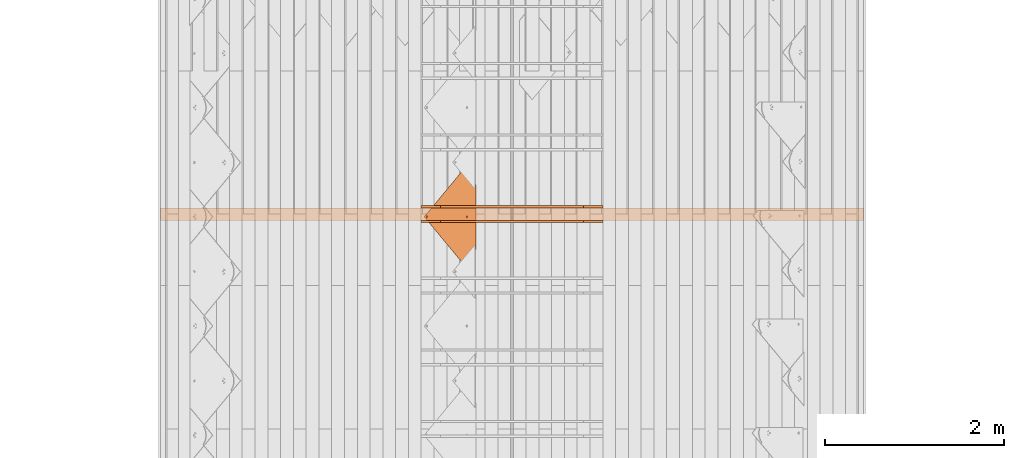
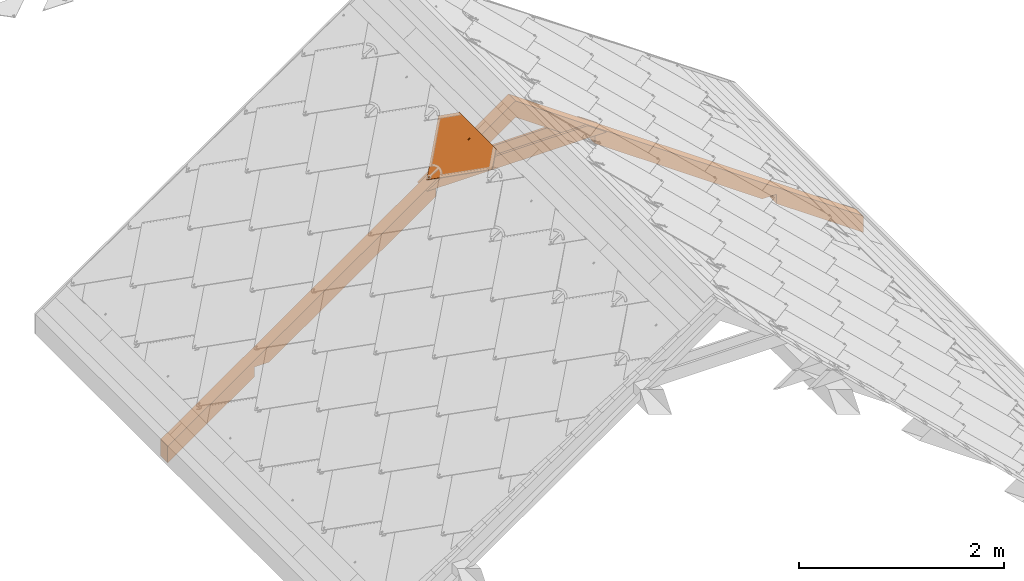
# One storey, part 63 of 133: 4 proxies, 1 element without a shape of its own.
"""IFC2X3 building model written with IfcOpenShell, lengths in millimetres."""

from ifc_helpers import new_model, entity, si_unit, converted_unit, derived_unit, direction, frame, origin, place, context, subcontext, project, spatial, polyline, outline, extrude, faceted_brep, source, transform, mapped, material, material_list, type_object, type_shapes, element, aggregate, save


model = new_model("IFC2X3")

# Units and contexts
model_context = context("Model", 3, precision=0.01, world=origin(), true_north=direction((6.12303176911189e-17, 1.0)))
body_context = subcontext(model_context, "Body", "Model", "MODEL_VIEW")
ifc_project = project(units=[si_unit("LENGTHUNIT", "METRE", prefix="MILLI"), si_unit("AREAUNIT", "SQUARE_METRE"), si_unit("VOLUMEUNIT", "CUBIC_METRE"), converted_unit("PLANEANGLEUNIT", "DEGREE", entity("IfcRatioMeasure", 0.0174532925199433), si_unit("PLANEANGLEUNIT", "RADIAN"), dimensions=[0, 0, 0, 0, 0, 0, 0]), si_unit("MASSUNIT", "GRAM", prefix="KILO"), derived_unit("MASSDENSITYUNIT", [(si_unit("MASSUNIT", "GRAM", prefix="KILO"), 1), (si_unit("LENGTHUNIT", "METRE"), -3)]), si_unit("TIMEUNIT", "SECOND"), si_unit("FREQUENCYUNIT", "HERTZ"), si_unit("THERMODYNAMICTEMPERATUREUNIT", "DEGREE_CELSIUS"), derived_unit("THERMALTRANSMITTANCEUNIT", [(si_unit("MASSUNIT", "GRAM", prefix="KILO"), 1), (si_unit("THERMODYNAMICTEMPERATUREUNIT", "KELVIN"), -1), (si_unit("TIMEUNIT", "SECOND"), -3)]), derived_unit("VOLUMETRICFLOWRATEUNIT", [(si_unit("LENGTHUNIT", "METRE"), 3), (si_unit("TIMEUNIT", "SECOND"), -1)]), si_unit("ELECTRICCURRENTUNIT", "AMPERE"), si_unit("ELECTRICVOLTAGEUNIT", "VOLT"), si_unit("POWERUNIT", "WATT"), si_unit("FORCEUNIT", "NEWTON", prefix="KILO"), si_unit("ILLUMINANCEUNIT", "LUX"), si_unit("LUMINOUSFLUXUNIT", "LUMEN"), si_unit("LUMINOUSINTENSITYUNIT", "CANDELA"), derived_unit("USERDEFINED", [(si_unit("MASSUNIT", "GRAM", prefix="KILO"), -1), (si_unit("LENGTHUNIT", "METRE"), -2), (si_unit("TIMEUNIT", "SECOND"), 3), (si_unit("LUMINOUSFLUXUNIT", "LUMEN"), 1)]), derived_unit("LINEARVELOCITYUNIT", [(si_unit("LENGTHUNIT", "METRE"), 1), (si_unit("TIMEUNIT", "SECOND"), -1)]), si_unit("PRESSUREUNIT", "PASCAL"), derived_unit("USERDEFINED", [(si_unit("LENGTHUNIT", "METRE"), -2), (si_unit("MASSUNIT", "GRAM", prefix="KILO"), 1), (si_unit("TIMEUNIT", "SECOND"), -2)])], contexts=[model_context])

# Site, building, storey
site_placement = place(None, origin())
site = spatial("IfcSite", under=ifc_project, at=site_placement, Name="Default", CompositionType="ELEMENT")
building_placement = place(site_placement, origin())
building = spatial("IfcBuilding", under=site, at=building_placement, CompositionType="ELEMENT")
storey_placement = place(building_placement, origin())
storey = spatial("IfcBuildingStorey", under=building, at=storey_placement, Name="Level 1", CompositionType="ELEMENT", Elevation=0.0)

# Assembly, proxies
assembly_placement = place(storey_placement, origin())
assembly = element("IfcElementAssembly", 1, at=assembly_placement, inside=storey, Name="Structural Framing Assembly:Roof Construction Assembly", ObjectType="Structural Framing Assembly:Roof Construction Assembly", AssemblyPlace="NOTDEFINED", PredefinedType="USERDEFINED")
ifc_material_1 = material(Name="Wood - Generic - Wood For Showcase")
building_element_proxy_type_1 = type_object("IfcBuildingElementProxyType", Name="Structural Framing 1", PredefinedType="NOTDEFINED", material=ifc_material_1)
shared_shape_1 = source(origin(), body_context, "Body", "SweptSolid", [
    extrude(outline(polyline([(-929.245683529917, -1327.10037070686), (3863.25950492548, -1327.10037070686), (3975.29271103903, -1167.10037070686), (2778.93361405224, -1167.10037070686), (2713.54351952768, -1260.48710386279), (2580.17344271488, -1167.10037070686), (278.933614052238, -1167.10037070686), (213.543519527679, -1260.48710386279), (80.1734427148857, -1167.10037070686), (-817.21247741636, -1167.10037070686), (-1124.13653843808, -323.833443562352), (-1257.50661525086, -230.446710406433), (-1192.11652072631, -137.059977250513), (-1979.18689675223, 2025.39810840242), (-2112.55697356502, 2118.78484155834), (-2047.16687904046, 2212.17157471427), (-2456.34578886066, 3336.38138996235), (-2568.37899497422, 3176.38138996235), (-929.245683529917, -1327.10037070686)])), frame((1206.77890726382, 3785.55080214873, 1179.90959070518), z_axis=(0.0, 1.0, 0.0), x_axis=(0.819152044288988, 0.0, -0.573576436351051)), (0.0, 0.0, 1.0), 140.0),
])
type_shapes(building_element_proxy_type_1, [shared_shape_1])
proxy_1_placement = place(assembly_placement, frame((0.0, -2400.0, 0.0)))
proxy_1 = element("IfcBuildingElementProxy", 2, at=proxy_1_placement, type_object=building_element_proxy_type_1, material=ifc_material_1, Name="Structural Framing 4:Structural Framing 1", ObjectType="Structural Framing 4:Structural Framing 1", context=body_context, shape_type="MappedRepresentation", body=[
    mapped(shared_shape_1, transform((0.0, 0.0, 0.0), scale=1.0)),
])
building_element_proxy_type_2 = type_object("IfcBuildingElementProxyType", Name="Structural Framing 296", PredefinedType="NOTDEFINED", material=ifc_material_1)
shared_shape_2 = source(origin(), body_context, "Body", "SweptSolid", [
    extrude(outline(polyline([(-1014.04699829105, -75.0), (1014.04699829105, -75.0), (799.824797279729, 75.0), (-799.824797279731, 75.0), (-1014.04699829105, -75.0)])), frame((1206.77890726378, 3760.55080214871, 2164.95664769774), z_axis=(0.0, 1.0, 0.0), x_axis=(-1.0, 0.0, 0.0)), (0.0, 0.0, 1.0), 24.9999999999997),
])
type_shapes(building_element_proxy_type_2, [shared_shape_2])
proxy_2_placement = place(assembly_placement, frame((0.0, -2400.0, 0.0)))
proxy_2 = element("IfcBuildingElementProxy", 3, at=proxy_2_placement, type_object=building_element_proxy_type_2, material=ifc_material_1, Name="Structural Framing 301:Structural Framing 296", ObjectType="Structural Framing 301:Structural Framing 296", context=body_context, shape_type="MappedRepresentation", body=[
    mapped(shared_shape_2, transform((0.0, 0.0, 0.0), scale=1.0)),
])
building_element_proxy_type_3 = type_object("IfcBuildingElementProxyType", Name="Structural Framing 296", PredefinedType="NOTDEFINED", material=ifc_material_1)
shared_shape_3 = source(origin(), body_context, "Body", "SweptSolid", [
    extrude(outline(polyline([(-1014.04699829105, -75.0), (1014.04699829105, -75.0), (799.824797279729, 75.0), (-799.824797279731, 75.0), (-1014.04699829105, -75.0)])), frame((1206.77890726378, 2325.55080214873, 2164.95664769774), z_axis=(0.0, 1.0, 0.0), x_axis=(-1.0, 0.0, 0.0)), (0.0, 0.0, 1.0), 25.0),
])
type_shapes(building_element_proxy_type_3, [shared_shape_3])
proxy_3_placement = place(assembly_placement, frame((0.0, -800.0, 0.0)))
proxy_3 = element("IfcBuildingElementProxy", 4, at=proxy_3_placement, type_object=building_element_proxy_type_3, material=ifc_material_1, Name="Structural Framing 302:Structural Framing 296", ObjectType="Structural Framing 302:Structural Framing 296", context=body_context, shape_type="MappedRepresentation", body=[
    mapped(shared_shape_3, transform((0.0, 0.0, 0.0), scale=1.0)),
])
aggregate(assembly, [proxy_1, proxy_2, proxy_3])

# Proxy
ifc_material_2 = material(Name="Rubber - Sunstyle - Black")
ifc_material_3 = material(Name="Glass - Sunstyle - Tainted Black")
ifc_material_list_1 = material_list([ifc_material_2, ifc_material_3])
ifc_material_list_2 = material_list([ifc_material_2, ifc_material_3])
building_element_proxy_type_4 = type_object("IfcBuildingElementProxyType", Name="Shingle Top - Black", PredefinedType="NOTDEFINED", material=ifc_material_list_2)
shared_shape_4 = source(origin(), body_context, "Body", "Brep", [
    faceted_brep([(-518.396436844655, -96.9865733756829, 16.4476231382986), (-518.396436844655, -96.9614556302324, 17.9474128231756), (-526.881123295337, -88.4767691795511, 17.8053154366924), (-526.881123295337, -88.5018869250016, 16.3055257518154), (-376.996804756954, 61.3404039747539, 13.7960402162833), (-368.512118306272, 52.8557175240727, 13.9381376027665), (-376.996804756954, 61.3655217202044, 15.2958299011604), (-368.512118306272, 52.8808352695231, 15.4379272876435)], [[[0, 1, 2, 3]], [[0, 3, 4, 5]], [[3, 2, 6, 4]], [[2, 1, 7, 6]], [[1, 0, 5, 7]], [[5, 4, 6, 7]]]),
    faceted_brep([(0.166366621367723, -33.6374645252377, -4.47296585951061), (-5.6078362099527, -36.9707346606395, -4.4171418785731), (-5.60783620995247, -36.6024255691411, 17.5747274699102), (0.166366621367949, -33.2691554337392, 17.5189034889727), (-5.60783620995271, -43.6372749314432, -4.30549391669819), (-5.60783620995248, -43.2689658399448, 17.6863754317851), (0.166366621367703, -46.9705450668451, -4.24966993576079), (0.166366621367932, -46.6022359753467, 17.7421994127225), (5.94056945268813, -43.6372749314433, -4.30549391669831), (5.94056945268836, -43.2689658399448, 17.686375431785), (5.94056945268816, -36.9707346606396, -4.41714187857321), (5.94056945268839, -36.6024255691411, 17.5747274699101), (-8.43733754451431, -48.5381935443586, 17.774621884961), (0.16636662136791, -52.1014648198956, 17.8342978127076), (-12.0011084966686, -39.9356957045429, 17.6305514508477), (-8.43733754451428, -31.3331978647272, 17.4864810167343), (0.166366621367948, -27.7699265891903, 17.4268050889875), (8.77007078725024, -31.3331978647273, 17.4864810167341), (12.3338417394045, -39.935695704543, 17.6305514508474), (8.77007078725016, -48.5381935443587, 17.7746218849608), (-11.1578780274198, -37.6406185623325, 19.9433933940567), (-9.59010793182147, -39.8646808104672, 21.8708760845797), (0.166366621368, -32.5516055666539, 22.5035764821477), (0.166366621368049, -31.3111079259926, 21.9232298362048), (0.166366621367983, -29.1535570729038, 20.9138547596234), (0.166366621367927, -51.5454208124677, 19.1093557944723), (0.166366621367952, -50.6018442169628, 21.273060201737), (0.166366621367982, -47.1524685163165, 22.7481046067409), (0.166366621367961, -28.2829626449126, 18.7197675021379), (-6.15687907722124, -43.5022527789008, 22.6869725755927), (-6.15687907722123, -36.2018213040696, 22.5647085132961), (11.4906112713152, -42.1520387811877, 20.0189484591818), (10.0152467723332, -40.9390872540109, 21.7920079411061), (6.48961231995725, -36.2018213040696, 22.564708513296), (6.48961231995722, -43.5022527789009, 22.6869725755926), (-6.15687907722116, -43.3682243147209, 30.68986075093), (0.166366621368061, -47.0184400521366, 30.7509927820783), (0.166366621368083, -39.7180085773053, 30.6287287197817), (-6.15687907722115, -36.0677928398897, 30.5675966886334), (6.48961231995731, -43.368224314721, 30.6898607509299), (6.48961231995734, -36.0677928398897, 30.5675966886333), (0.166366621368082, -32.417577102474, 30.5064646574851), (0.166366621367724, -40.3040047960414, -4.36131789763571)], [[[0, 1, 2, 3]], [[1, 4, 5, 2]], [[4, 6, 7, 5]], [[6, 8, 9, 7]], [[8, 10, 11, 9]], [[10, 0, 3, 11]], [[12, 7, 13]], [[7, 12, 5]], [[14, 5, 12]], [[5, 14, 2]], [[15, 2, 14]], [[3, 2, 15]], [[15, 16, 3]], [[16, 17, 3]], [[11, 3, 17]], [[11, 17, 18]], [[9, 11, 18]], [[18, 19, 9]], [[7, 9, 19]], [[19, 13, 7]], [[20, 14, 12]], [[21, 22, 23, 24]], [[24, 20, 21]], [[25, 20, 12]], [[26, 27, 21]], [[15, 14, 20]], [[12, 13, 25]], [[20, 28, 15]], [[28, 20, 24]], [[21, 27, 29]], [[21, 29, 30]], [[26, 21, 20]], [[20, 25, 26]], [[15, 28, 16]], [[21, 30, 22]], [[31, 18, 17]], [[28, 31, 17]], [[32, 27, 26]], [[26, 31, 32]], [[26, 25, 31]], [[25, 19, 31]], [[17, 16, 28]], [[31, 19, 18]], [[24, 31, 28]], [[33, 34, 32]], [[23, 22, 33]], [[24, 32, 31]], [[27, 32, 34]], [[32, 23, 33]], [[19, 25, 13]], [[32, 24, 23]], [[35, 36, 37]], [[37, 38, 35]], [[36, 39, 37]], [[40, 37, 39]], [[37, 40, 41]], [[37, 41, 38]], [[42, 6, 4]], [[4, 1, 42]], [[1, 0, 42]], [[42, 8, 6]], [[0, 10, 42]], [[8, 42, 10]], [[22, 30, 38, 41]], [[30, 29, 35, 38]], [[29, 27, 36, 35]], [[27, 34, 39, 36]], [[34, 33, 40, 39]], [[33, 22, 41, 40]]]),
    faceted_brep([(0.0, -573.927138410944, 4.00636906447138), (-5.77420283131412, -577.260408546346, 4.0621930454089), (-5.77420283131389, -576.892099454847, 26.0540623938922), (0.0, -573.558829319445, 25.9982384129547), (-5.77420283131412, -583.926948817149, 4.1738410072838), (-5.7742028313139, -583.558639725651, 26.1657103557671), (0.0, -587.260218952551, 4.2296649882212), (0.0, -586.891909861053, 26.2215343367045), (5.77420283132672, -583.926948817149, 4.17384100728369), (5.77420283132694, -583.558639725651, 26.165710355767), (5.77420283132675, -577.260408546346, 4.06219304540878), (5.77420283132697, -576.892099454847, 26.0540623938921), (-8.60370416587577, -588.827867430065, 26.253956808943), (0.0, -592.391138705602, 26.3136327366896), (-12.1674751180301, -580.225369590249, 26.1098863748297), (-8.60370416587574, -571.622871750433, 25.9658159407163), (0.0, -568.059600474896, 25.9061400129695), (8.60370416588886, -571.622871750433, 25.9658159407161), (12.1674751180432, -580.225369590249, 26.1098863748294), (8.60370416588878, -588.827867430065, 26.2539568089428), (-11.3242446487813, -577.930292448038, 28.4227283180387), (-9.75647455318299, -580.154354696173, 30.3502110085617), (0.0, -572.84127945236, 30.9829114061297), (0.0, -571.600781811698, 30.4025647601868), (0.0, -569.44323095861, 29.3931896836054), (0.0, -591.835094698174, 27.5886907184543), (0.0, -590.891518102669, 29.752395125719), (0.0, -587.442142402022, 31.227439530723), (0.0, -568.572636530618, 27.1991024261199), (-6.32324569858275, -583.791926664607, 31.1663074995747), (-6.32324569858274, -576.491495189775, 31.0440434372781), (11.3242446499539, -582.441712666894, 28.4982833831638), (9.84888015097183, -581.228761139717, 30.2713428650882), (6.32324569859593, -576.491495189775, 31.044043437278), (6.32324569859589, -583.791926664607, 31.1663074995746), (-6.32324569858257, -583.657898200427, 39.169195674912), (0.0, -587.308113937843, 39.2303277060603), (0.0, -580.007682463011, 39.1080636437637), (-6.32324569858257, -576.357466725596, 39.0469316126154), (6.32324569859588, -583.657898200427, 39.1691956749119), (6.32324569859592, -576.357466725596, 39.0469316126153), (0.0, -572.70725098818, 38.9857995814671), (0.0, -580.593678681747, 4.11801702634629)], [[[0, 1, 2, 3]], [[1, 4, 5, 2]], [[4, 6, 7, 5]], [[6, 8, 9, 7]], [[8, 10, 11, 9]], [[10, 0, 3, 11]], [[12, 7, 13]], [[7, 12, 5]], [[14, 5, 12]], [[5, 14, 2]], [[15, 2, 14]], [[3, 2, 15]], [[15, 16, 3]], [[16, 17, 3]], [[11, 3, 17]], [[11, 17, 18]], [[9, 11, 18]], [[18, 19, 9]], [[7, 9, 19]], [[19, 13, 7]], [[20, 14, 12]], [[21, 22, 23, 24]], [[24, 20, 21]], [[25, 20, 12]], [[26, 27, 21]], [[15, 14, 20]], [[12, 13, 25]], [[20, 28, 15]], [[28, 20, 24]], [[21, 27, 29]], [[21, 29, 30]], [[26, 21, 20]], [[20, 25, 26]], [[15, 28, 16]], [[21, 30, 22]], [[31, 18, 17]], [[28, 31, 17]], [[32, 27, 26]], [[26, 31, 32]], [[26, 25, 31]], [[25, 19, 31]], [[17, 16, 28]], [[31, 19, 18]], [[24, 31, 28]], [[33, 34, 32]], [[23, 22, 33]], [[24, 32, 31]], [[27, 32, 34]], [[32, 23, 33]], [[19, 25, 13]], [[32, 24, 23]], [[35, 36, 37]], [[37, 38, 35]], [[36, 39, 37]], [[40, 37, 39]], [[37, 40, 41]], [[37, 41, 38]], [[42, 6, 4]], [[4, 1, 42]], [[1, 0, 42]], [[42, 8, 6]], [[0, 10, 42]], [[8, 42, 10]], [[22, 30, 38, 41]], [[30, 29, 35, 38]], [[29, 27, 36, 35]], [[27, 34, 39, 36]], [[34, 33, 40, 39]], [[33, 22, 41, 40]]]),
    faceted_brep([(518.482751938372, -96.8754983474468, 17.9260478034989), (526.967438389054, -88.3908118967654, 17.7839504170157), (526.967438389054, -88.3656941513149, 19.2837401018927), (518.482751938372, -96.8503806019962, 19.4258374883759), (349.749400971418, 71.8105397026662, 15.1009763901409), (358.234087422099, 80.2952261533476, 14.9588790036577), (358.234087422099, 80.3203438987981, 16.4586686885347), (349.749400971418, 71.8356574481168, 16.6007660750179)], [[[0, 1, 2, 3]], [[1, 0, 4, 5]], [[2, 1, 5, 6]], [[3, 2, 6, 7]], [[0, 3, 7, 4]], [[4, 7, 6, 5]]]),
    faceted_brep([(358.234087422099, 80.2952261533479, 14.9588790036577), (6.94661128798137, -35.8890860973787, 16.9046771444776), (7.74581466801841, -37.8182632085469, 16.9369860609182), (5.67526230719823, -34.2324641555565, 16.8769328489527), (8.01840805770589, -39.8885252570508, 16.9716577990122), (7.74581466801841, -41.9587873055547, 17.0063295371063), (6.94661128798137, -43.8879644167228, 17.0386384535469), (526.967438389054, -88.3908118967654, 17.7839504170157), (4.01840805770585, -32.9612934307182, 16.855643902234), (2.08896041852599, -32.1622021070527, 16.8422611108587), (0.0184080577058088, -31.8896469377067, 16.8376964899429), (-358.233442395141, 80.2952261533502, 14.9588790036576), (-2.05214430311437, -32.1622021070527, 16.8422611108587), (-3.98159194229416, -32.9612934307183, 16.855643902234), (-5.63844619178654, -34.2324641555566, 16.8769328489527), (-6.90979517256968, -35.8890860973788, 16.9046771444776), (-7.70899855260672, -37.8182632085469, 16.9369860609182), (-7.98159194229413, -39.8885252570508, 16.9716577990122), (-7.70899855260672, -41.9587873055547, 17.0063295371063), (-6.90979517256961, -43.8879644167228, 17.0386384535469), (-526.966793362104, -88.390811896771, 17.7839504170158), (-5.63844619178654, -45.544586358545, 17.0663827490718), (-5.6568542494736, -574.226981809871, 25.9204974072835), (-6.92820323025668, -575.883603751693, 25.9482417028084), (-7.72740661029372, -577.812780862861, 25.980550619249), (-8.0, -579.883042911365, 26.015222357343), (-7.72740661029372, -581.953304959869, 26.049894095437), (0.000322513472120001, -615.210165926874, 26.6068637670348), (7.72740661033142, -581.953304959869, 26.049894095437), (6.92820323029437, -583.882482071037, 26.0822030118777), (5.65685424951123, -585.53910401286, 26.1099473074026), (4.0, -586.810274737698, 26.1312362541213), (2.070552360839, -587.609366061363, 26.1446190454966), (0.0, -587.881921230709, 26.1491836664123), (-2.0705523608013, -587.609366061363, 26.1446190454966), (-4.0, -586.810274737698, 26.1312362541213), (-5.65685424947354, -585.53910401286, 26.1099473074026), (-6.92820323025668, -583.882482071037, 26.0822030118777), (-4.0, -572.955811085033, 25.8992084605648), (-3.98159194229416, -46.8157570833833, 17.0876716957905), (-2.07055236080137, -572.156719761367, 25.8858256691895), (-2.05214430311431, -47.614848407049, 17.1010544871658), (0.0, -571.884164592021, 25.8812610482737), (0.0184080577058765, -47.8874035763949, 17.1056191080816), (2.07055236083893, -572.156719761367, 25.8858256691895), (2.08896041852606, -47.6148484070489, 17.1010544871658), (4.0, -572.955811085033, 25.8992084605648), (4.01840805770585, -46.8157570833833, 17.0876716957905), (5.65685424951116, -574.226981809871, 25.9204974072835), (5.67526230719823, -45.544586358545, 17.0663827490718), (6.92820323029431, -575.883603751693, 25.9482417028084), (7.72740661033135, -577.812780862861, 25.980550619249), (8.0, -579.883042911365, 26.015222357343), (-358.233442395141, 80.1947551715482, 8.9597202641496), (-6.90979517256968, -35.9895570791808, 10.9055184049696), (-7.70899855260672, -37.9187341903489, 10.9378273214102), (-5.63844619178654, -34.3329351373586, 10.8777741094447), (-7.98159194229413, -39.9889962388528, 10.9724990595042), (-7.70899855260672, -42.0592582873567, 11.0071707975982), (-6.90979517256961, -43.9884353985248, 11.0394797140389), (-526.966793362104, -88.4912828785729, 11.7847916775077), (-3.98159194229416, -33.0617644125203, 10.856485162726), (-2.05214430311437, -32.2626730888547, 10.8431023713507), (0.0184080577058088, -31.9901179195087, 10.8385377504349), (358.234087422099, 80.1947551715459, 8.95972026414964), (2.08896041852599, -32.2626730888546, 10.8431023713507), (4.01840805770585, -33.0617644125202, 10.856485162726), (5.67526230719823, -34.3329351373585, 10.8777741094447), (6.94661128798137, -35.9895570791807, 10.9055184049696), (7.74581466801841, -37.9187341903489, 10.9378273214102), (8.01840805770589, -39.9889962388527, 10.9724990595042), (7.74581466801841, -42.0592582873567, 11.0071707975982), (6.94661128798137, -43.9884353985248, 11.0394797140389), (526.967438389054, -88.4912828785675, 11.7847916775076), (5.67526230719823, -45.645057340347, 11.0672240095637), (5.65685424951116, -574.327452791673, 19.9213386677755), (6.92820323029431, -575.984074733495, 19.9490829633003), (7.72740661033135, -577.913251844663, 19.981391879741), (8.0, -579.983513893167, 20.016063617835), (7.72740661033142, -582.053775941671, 20.050735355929), (0.000322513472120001, -615.310636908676, 20.6077050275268), (-7.72740661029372, -582.053775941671, 20.050735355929), (-6.92820323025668, -583.982953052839, 20.0830442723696), (-5.65685424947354, -585.639574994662, 20.1107885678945), (-4.0, -586.9107457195, 20.1320775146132), (-2.0705523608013, -587.709837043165, 20.1454603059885), (0.0, -587.982392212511, 20.1500249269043), (2.070552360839, -587.709837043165, 20.1454603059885), (4.0, -586.9107457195, 20.1320775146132), (5.65685424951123, -585.639574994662, 20.1107885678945), (6.92820323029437, -583.982953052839, 20.0830442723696), (4.01840805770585, -46.9162280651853, 11.0885129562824), (4.0, -573.056282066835, 19.9000497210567), (2.08896041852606, -47.7153193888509, 11.1018957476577), (2.07055236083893, -572.257190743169, 19.8866669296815), (0.0184080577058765, -47.9878745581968, 11.1064603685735), (0.0, -571.984635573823, 19.8821023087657), (-2.05214430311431, -47.7153193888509, 11.1018957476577), (-2.07055236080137, -572.257190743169, 19.8866669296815), (-3.98159194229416, -46.9162280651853, 11.0885129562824), (-4.0, -573.056282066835, 19.9000497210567), (-5.63844619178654, -45.645057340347, 11.0672240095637), (-5.6568542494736, -574.327452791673, 19.9213386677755), (-6.92820323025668, -575.984074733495, 19.9490829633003), (-7.72740661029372, -577.913251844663, 19.981391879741), (-8.0, -579.983513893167, 20.016063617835)], [[[0, 1, 2]], [[1, 0, 3]], [[0, 2, 4]], [[4, 5, 0]], [[5, 6, 0]], [[7, 0, 6]], [[8, 3, 0]], [[9, 8, 0]], [[10, 9, 0]], [[0, 11, 10]], [[12, 10, 11]], [[13, 12, 11]], [[14, 13, 11]], [[11, 15, 14]], [[15, 11, 16]], [[16, 11, 17]], [[11, 18, 17]], [[18, 11, 19]], [[11, 20, 19]], [[19, 20, 21]], [[20, 22, 21]], [[23, 22, 20]], [[24, 23, 20]], [[24, 20, 25]], [[26, 25, 20]], [[27, 26, 20]], [[7, 28, 27]], [[29, 27, 28]], [[27, 29, 30]], [[30, 31, 27]], [[31, 32, 27]], [[27, 32, 33]], [[27, 33, 34]], [[34, 35, 27]], [[27, 35, 36]], [[36, 37, 27]], [[37, 26, 27]], [[38, 21, 22]], [[38, 39, 21]], [[38, 40, 39]], [[40, 41, 39]], [[40, 42, 41]], [[41, 42, 43]], [[44, 43, 42]], [[44, 45, 43]], [[45, 44, 46]], [[46, 47, 45]], [[46, 48, 47]], [[48, 49, 47]], [[50, 7, 48]], [[48, 7, 49]], [[7, 50, 51]], [[7, 51, 52]], [[52, 28, 7]], [[7, 6, 49]], [[53, 54, 55]], [[54, 53, 56]], [[53, 55, 57]], [[58, 53, 57]], [[59, 53, 58]], [[60, 53, 59]], [[61, 56, 53]], [[62, 61, 53]], [[53, 63, 62]], [[63, 53, 64]], [[65, 63, 64]], [[66, 65, 64]], [[64, 67, 66]], [[67, 64, 68]], [[68, 64, 69]], [[70, 69, 64]], [[71, 70, 64]], [[72, 71, 64]], [[72, 64, 73]], [[72, 73, 74]], [[74, 73, 75]], [[73, 76, 75]], [[76, 73, 77]], [[77, 73, 78]], [[79, 78, 73]], [[79, 73, 80]], [[60, 81, 80]], [[80, 81, 82]], [[80, 82, 83]], [[83, 84, 80]], [[84, 85, 80]], [[85, 86, 80]], [[80, 86, 87]], [[80, 87, 88]], [[80, 88, 89]], [[79, 80, 90]], [[80, 89, 90]], [[75, 91, 74]], [[75, 92, 91]], [[92, 93, 91]], [[93, 92, 94]], [[93, 94, 95]], [[96, 95, 94]], [[97, 95, 96]], [[96, 98, 97]], [[98, 99, 97]], [[98, 100, 99]], [[100, 101, 99]], [[100, 102, 101]], [[60, 101, 102]], [[103, 60, 102]], [[103, 104, 60]], [[104, 105, 60]], [[105, 81, 60]], [[59, 101, 60]], [[27, 20, 60, 80]], [[7, 27, 80, 73]], [[0, 7, 73, 64]], [[25, 105, 104, 24]], [[24, 104, 103, 23]], [[38, 22, 102, 100]], [[102, 22, 23, 103]], [[40, 38, 100, 98]], [[40, 98, 96, 42]], [[42, 96, 94, 44]], [[44, 94, 92, 46]], [[50, 48, 75, 76]], [[75, 48, 46, 92]], [[51, 50, 76, 77]], [[51, 77, 78, 52]], [[52, 78, 79, 28]], [[28, 79, 90, 29]], [[31, 30, 89, 88]], [[29, 90, 89, 30]], [[87, 32, 31, 88]], [[32, 87, 86, 33]], [[34, 33, 86, 85]], [[34, 85, 84, 35]], [[37, 36, 83, 82]], [[35, 84, 83, 36]], [[37, 82, 81, 26]], [[26, 81, 105, 25]], [[17, 57, 55, 16]], [[16, 55, 54, 15]], [[13, 14, 56, 61]], [[56, 14, 15, 54]], [[12, 13, 61, 62]], [[12, 62, 63, 10]], [[10, 63, 65, 9]], [[9, 65, 66, 8]], [[1, 3, 67, 68]], [[67, 3, 8, 66]], [[2, 1, 68, 69]], [[2, 69, 70, 4]], [[4, 70, 71, 5]], [[5, 71, 72, 6]], [[47, 49, 74, 91]], [[74, 49, 6, 72]], [[45, 47, 91, 93]], [[45, 93, 95, 43]], [[43, 95, 97, 41]], [[41, 97, 99, 39]], [[19, 21, 101, 59]], [[101, 21, 39, 99]], [[18, 19, 59, 58]], [[18, 58, 57, 17]], [[11, 0, 64, 53]], [[20, 11, 53, 60]]]),
])
type_shapes(building_element_proxy_type_4, [shared_shape_4])
proxy_4_placement = place(storey_placement, frame((745.409615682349, 1425.1808736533, 2507.46510885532), z_axis=(-0.57357643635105, 0.0, 0.819152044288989), x_axis=(0.0, -1.0, 0.0)))
element("IfcBuildingElementProxy", 5, at=proxy_4_placement, inside=storey, type_object=building_element_proxy_type_4, material=ifc_material_list_1, Name="Roofing_Panels_SunStyle_Tile_Shingle-Top:Shingle Top - Black", ObjectType="Roofing_Panels_SunStyle_Tile_Shingle-Top:Shingle Top - Black", context=body_context, shape_type="MappedRepresentation", body=[
    mapped(shared_shape_4, transform((0.0, 0.0, 0.0), scale=1.0)),
])

save(model, "model.ifc")
